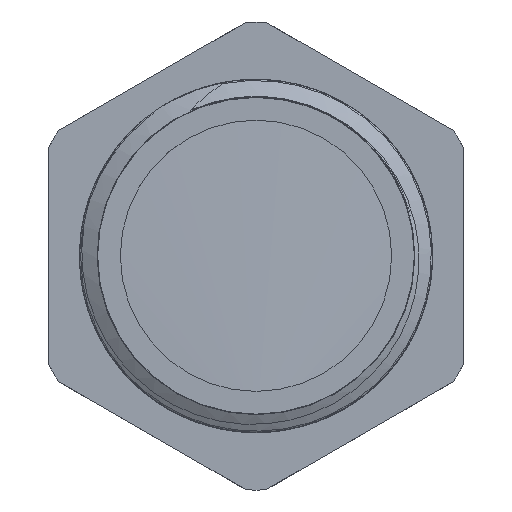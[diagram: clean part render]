
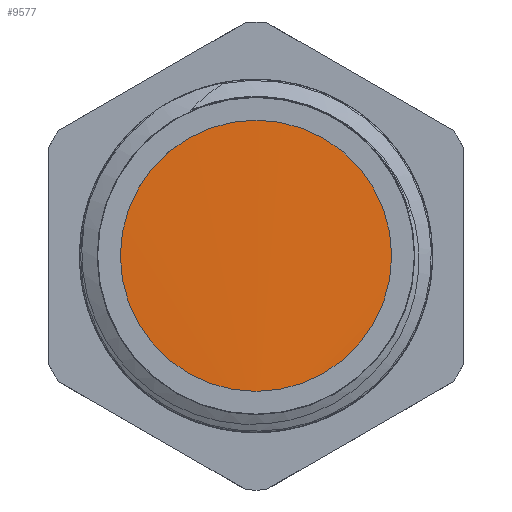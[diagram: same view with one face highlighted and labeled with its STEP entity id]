
A CAD part, top view. The second image highlights one B-rep face of the part: STEP entity #9577.
In plain terms, the highlighted cylindrical face has radius 16.6 mm (diameter 33.2 mm), a full revolution.
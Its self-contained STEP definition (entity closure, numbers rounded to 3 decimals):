
#1058=LINE('',#22509,#1589);
#1060=LINE('',#22577,#1591);
#1589=VECTOR('',#11377,16.6);
#1591=VECTOR('',#11385,16.6);
#1656=CYLINDRICAL_SURFACE('',#10024,16.6);
#2172=FACE_OUTER_BOUND('',#2744,.T.);
#2744=EDGE_LOOP('',(#8956,#8957,#8958));
#3649=B_SPLINE_CURVE_WITH_KNOTS('',3,(#22578,#22579,#22580,#22581,#22582,
#22583,#22584,#22585,#22586,#22587,#22588,#22589,#22590,#22591,#22592,#22593,
#22594),.UNSPECIFIED.,.F.,.F.,(4,1,1,1,1,1,1,1,1,1,1,1,1,1,4),(43.982,
44.246,44.741,45.236,45.732,46.227,
46.723,47.218,47.713,48.209,48.704,
49.2,49.695,50.19,50.265),
 .UNSPECIFIED.);
#4641=VERTEX_POINT('',#22507);
#4642=VERTEX_POINT('',#22508);
#4646=VERTEX_POINT('',#22576);
#6083=EDGE_CURVE('',#4641,#4642,#1058,.T.);
#6089=EDGE_CURVE('',#4646,#4642,#1060,.T.);
#6090=EDGE_CURVE('',#4646,#4641,#3649,.T.);
#8956=ORIENTED_EDGE('',*,*,#6083,.T.);
#8957=ORIENTED_EDGE('',*,*,#6089,.F.);
#8958=ORIENTED_EDGE('',*,*,#6090,.T.);
#9577=ADVANCED_FACE('',(#2172),#1656,.T.);
#10024=AXIS2_PLACEMENT_3D('',#22575,#11383,#11384);
#11377=DIRECTION('',(0.,0.,1.));
#11383=DIRECTION('center_axis',(0.,0.,1.));
#11384=DIRECTION('ref_axis',(0.,1.,0.));
#11385=DIRECTION('',(0.,0.,-1.));
#22507=CARTESIAN_POINT('',(0.,-16.6,38.517));
#22508=CARTESIAN_POINT('',(0.,-16.6,40.809));
#22509=CARTESIAN_POINT('',(0.,-16.6,47.5));
#22575=CARTESIAN_POINT('Origin',(0.,0.,47.5));
#22576=CARTESIAN_POINT('',(0.,-16.6,40.829));
#22577=CARTESIAN_POINT('',(0.,-16.6,47.5));
#22578=CARTESIAN_POINT('Ctrl Pts',(0.,-16.599,
40.829));
#22579=CARTESIAN_POINT('Ctrl Pts',(-1.457,-16.598,
40.797));
#22580=CARTESIAN_POINT('Ctrl Pts',(-5.657,-16.051,
40.704));
#22581=CARTESIAN_POINT('Ctrl Pts',(-11.899,-12.551,
40.55));
#22582=CARTESIAN_POINT('Ctrl Pts',(-16.435,-5.385,
40.367));
#22583=CARTESIAN_POINT('Ctrl Pts',(-17.019,3.075,40.185));
#22584=CARTESIAN_POINT('Ctrl Pts',(-13.511,10.795,40.003));
#22585=CARTESIAN_POINT('Ctrl Pts',(-6.755,15.921,39.821));
#22586=CARTESIAN_POINT('Ctrl Pts',(1.625,17.218,39.639));
#22587=CARTESIAN_POINT('Ctrl Pts',(9.615,14.375,39.456));
#22588=CARTESIAN_POINT('Ctrl Pts',(15.293,8.076,39.274));
#22589=CARTESIAN_POINT('Ctrl Pts',(17.294,-0.164,
39.092));
#22590=CARTESIAN_POINT('Ctrl Pts',(15.137,-8.366,38.91));
#22591=CARTESIAN_POINT('Ctrl Pts',(9.34,-14.555,38.727));
#22592=CARTESIAN_POINT('Ctrl Pts',(3.572,-16.485,38.597));
#22593=CARTESIAN_POINT('Ctrl Pts',(0.416,-16.601,
38.527));
#22594=CARTESIAN_POINT('Ctrl Pts',(0.,-16.601,
38.517));
